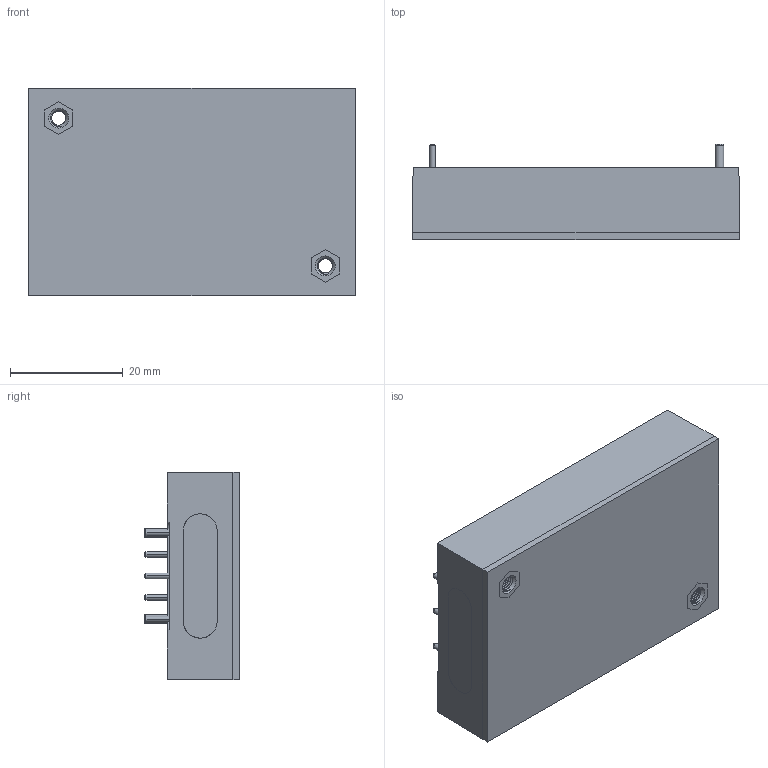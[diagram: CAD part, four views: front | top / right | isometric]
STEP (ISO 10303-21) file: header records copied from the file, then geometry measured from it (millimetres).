
FILE_DESCRIPTION (( 'STEP AP214' ), '1' );
FILE_NAME ('CQB50W12成品組合圖-1051123.STEP', '2017-03-31T08:33:12', ( 'user' ), ( 'SYNNEX' ), 'SwSTEP 2.0', 'SolidWorks 2008', '' );
FILE_SCHEMA (( 'AUTOMOTIVE_DESIGN' ));
Length unit declared in the file: millimetre
Products named in the file (6): CQB100-110S 鋁板(M-C528-01-J)G6611370101 G6611380101_預設; CQB100-110S 鋁板(M-C528-01-J)G6611370101 G6611380101; CQB100-110S 鋁板(M-C528-01-J)銅柱 M3x12.7mm; PKQ75 CASE(M-C116-04-M)G5113710012,G5119510012(CQB100-110S)_兩孔; CQB100-110S 圓PIN加灌膠 104,08,26; CQB50W12成品組合圖-1051123
Assembly tree (6 placements, depth 3):
  CQB50W12成品組合圖-1051123
    CQB100-110S 鋁板(M-C528-01-J)G6611370101 G6611380101
      CQB100-110S 鋁板(M-C528-01-J)銅柱 M3x12.7mm  x2
      CQB100-110S 鋁板(M-C528-01-J)G6611370101 G6611380101_預設
    CQB100-110S 圓PIN加灌膠 104,08,26
    PKQ75 CASE(M-C116-04-M)G5113710012,G5119510012(CQB100-110S)_兩孔
Bounding box: 57.9 x 16.9 x 36.8 mm (x, y, z)
Volume: 26917.4 mm3; surface area: 19692.9 mm2
Topology: 5 solids, 5 shells, 657 faces, 1758 edges, 1166 vertices
Faces by surface type: plane 338, cylinder 138, bspline 127, cone 50, torus 4
Entity records: 27232 total; most frequent: CARTESIAN_POINT 13407, ORIENTED_EDGE 3128, DIRECTION 2294, EDGE_CURVE 1564, VERTEX_POINT 1037, VECTOR 1030, LINE 1030, EDGE_LOOP 673
